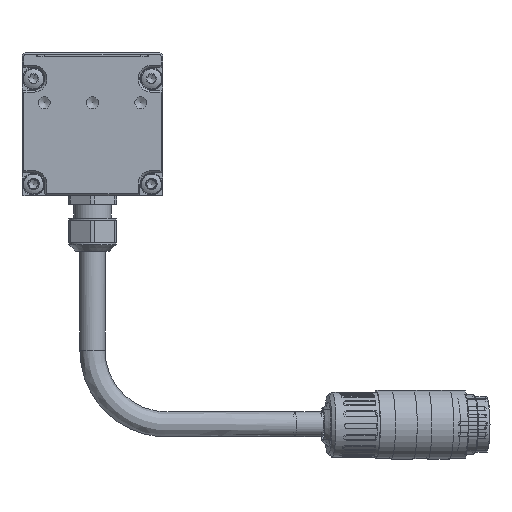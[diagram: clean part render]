
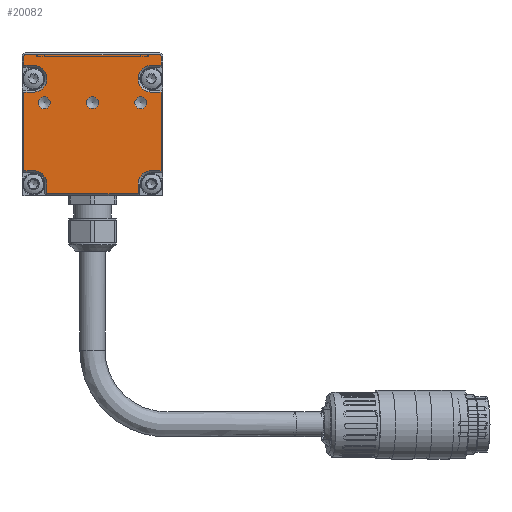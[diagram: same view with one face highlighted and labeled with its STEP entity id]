
A CAD part, left-side view. The second image highlights one B-rep face of the part: STEP entity #20082.
In plain terms, the highlighted planar face has unit normal (-1, 0, 0).
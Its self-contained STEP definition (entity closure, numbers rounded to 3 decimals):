
#880=LINE('',#27913,#1882);
#882=LINE('',#27917,#1884);
#886=LINE('',#27925,#1888);
#889=LINE('',#27931,#1891);
#891=LINE('',#27936,#1893);
#895=LINE('',#27944,#1897);
#897=LINE('',#27948,#1899);
#901=LINE('',#27957,#1903);
#903=LINE('',#27962,#1905);
#906=LINE('',#27970,#1908);
#909=LINE('',#27976,#1911);
#912=LINE('',#27984,#1914);
#916=LINE('',#27992,#1918);
#919=LINE('',#27999,#1921);
#1882=VECTOR('',#23214,1000.);
#1884=VECTOR('',#23218,1000.);
#1888=VECTOR('',#23224,1000.);
#1891=VECTOR('',#23229,1000.);
#1893=VECTOR('',#23235,1000.);
#1897=VECTOR('',#23241,1000.);
#1899=VECTOR('',#23247,1000.);
#1903=VECTOR('',#23257,1000.);
#1905=VECTOR('',#23265,1000.);
#1908=VECTOR('',#23274,1000.);
#1911=VECTOR('',#23283,1000.);
#1914=VECTOR('',#23292,1000.);
#1918=VECTOR('',#23302,1000.);
#1921=VECTOR('',#23311,1000.);
#2682=PLANE('',#21147);
#3923=ORIENTED_EDGE('',*,*,#7674,.T.);
#3924=ORIENTED_EDGE('',*,*,#7675,.T.);
#3925=ORIENTED_EDGE('',*,*,#7676,.T.);
#3926=ORIENTED_EDGE('',*,*,#7648,.T.);
#3927=ORIENTED_EDGE('',*,*,#7645,.T.);
#3928=ORIENTED_EDGE('',*,*,#7639,.T.);
#3929=ORIENTED_EDGE('',*,*,#7656,.T.);
#3930=ORIENTED_EDGE('',*,*,#7654,.T.);
#3931=ORIENTED_EDGE('',*,*,#7652,.T.);
#3932=ORIENTED_EDGE('',*,*,#7630,.T.);
#3933=ORIENTED_EDGE('',*,*,#7663,.T.);
#3934=ORIENTED_EDGE('',*,*,#7661,.T.);
#3935=ORIENTED_EDGE('',*,*,#7659,.T.);
#3936=ORIENTED_EDGE('',*,*,#7628,.T.);
#3937=ORIENTED_EDGE('',*,*,#7673,.F.);
#3938=ORIENTED_EDGE('',*,*,#7643,.T.);
#3939=ORIENTED_EDGE('',*,*,#7672,.F.);
#3940=ORIENTED_EDGE('',*,*,#7637,.T.);
#3941=ORIENTED_EDGE('',*,*,#7671,.T.);
#3942=ORIENTED_EDGE('',*,*,#7669,.T.);
#3943=ORIENTED_EDGE('',*,*,#7667,.T.);
#3944=ORIENTED_EDGE('',*,*,#7634,.T.);
#3945=ORIENTED_EDGE('',*,*,#7650,.T.);
#7628=EDGE_CURVE('',#9566,#9567,#880,.T.);
#7630=EDGE_CURVE('',#9569,#9568,#882,.T.);
#7634=EDGE_CURVE('',#9570,#9571,#886,.T.);
#7637=EDGE_CURVE('',#9572,#9573,#889,.T.);
#7639=EDGE_CURVE('',#9575,#9574,#891,.T.);
#7643=EDGE_CURVE('',#9576,#9577,#895,.T.);
#7645=EDGE_CURVE('',#9578,#9575,#897,.T.);
#7648=EDGE_CURVE('',#9579,#9578,#10697,.T.);
#7650=EDGE_CURVE('',#9571,#9579,#901,.T.);
#7652=EDGE_CURVE('',#9580,#9569,#903,.T.);
#7654=EDGE_CURVE('',#9581,#9580,#10698,.T.);
#7656=EDGE_CURVE('',#9574,#9581,#906,.T.);
#7659=EDGE_CURVE('',#9582,#9566,#909,.T.);
#7661=EDGE_CURVE('',#9583,#9582,#10699,.T.);
#7663=EDGE_CURVE('',#9568,#9583,#912,.T.);
#7667=EDGE_CURVE('',#9584,#9570,#916,.T.);
#7669=EDGE_CURVE('',#9585,#9584,#10700,.T.);
#7671=EDGE_CURVE('',#9573,#9585,#919,.T.);
#7672=EDGE_CURVE('',#9572,#9577,#10701,.T.);
#7673=EDGE_CURVE('',#9576,#9567,#10702,.T.);
#7674=EDGE_CURVE('',#9586,#9586,#10703,.T.);
#7675=EDGE_CURVE('',#9587,#9587,#10704,.T.);
#7676=EDGE_CURVE('',#9588,#9588,#10705,.T.);
#9566=VERTEX_POINT('',#27910);
#9567=VERTEX_POINT('',#27912);
#9568=VERTEX_POINT('',#27916);
#9569=VERTEX_POINT('',#27918);
#9570=VERTEX_POINT('',#27922);
#9571=VERTEX_POINT('',#27924);
#9572=VERTEX_POINT('',#27928);
#9573=VERTEX_POINT('',#27930);
#9574=VERTEX_POINT('',#27935);
#9575=VERTEX_POINT('',#27937);
#9576=VERTEX_POINT('',#27941);
#9577=VERTEX_POINT('',#27943);
#9578=VERTEX_POINT('',#27949);
#9579=VERTEX_POINT('',#27953);
#9580=VERTEX_POINT('',#27963);
#9581=VERTEX_POINT('',#27967);
#9582=VERTEX_POINT('',#27977);
#9583=VERTEX_POINT('',#27981);
#9584=VERTEX_POINT('',#27991);
#9585=VERTEX_POINT('',#27995);
#9586=VERTEX_POINT('',#28007);
#9587=VERTEX_POINT('',#28009);
#9588=VERTEX_POINT('',#28011);
#10697=CIRCLE('',#21122,3.6);
#10698=CIRCLE('',#21128,3.6);
#10699=CIRCLE('',#21134,3.6);
#10700=CIRCLE('',#21140,3.6);
#10701=CIRCLE('',#21144,0.5);
#10702=CIRCLE('',#21146,0.5);
#10703=CIRCLE('',#21148,1.621);
#10704=CIRCLE('',#21149,1.621);
#10705=CIRCLE('',#21150,1.621);
#11388=EDGE_LOOP('',(#3923));
#11389=EDGE_LOOP('',(#3924));
#11390=EDGE_LOOP('',(#3925));
#11391=EDGE_LOOP('',(#3926,#3927,#3928,#3929,#3930,#3931,#3932,#3933,#3934,
#3935,#3936,#3937,#3938,#3939,#3940,#3941,#3942,#3943,#3944,#3945));
#12478=FACE_BOUND('',#11388,.T.);
#12479=FACE_BOUND('',#11389,.T.);
#12480=FACE_BOUND('',#11390,.T.);
#12481=FACE_BOUND('',#11391,.T.);
#20082=ADVANCED_FACE('',(#12478,#12479,#12480,#12481),#2682,.F.);
#21122=AXIS2_PLACEMENT_3D('',#27954,#23252,#23253);
#21128=AXIS2_PLACEMENT_3D('',#27966,#23269,#23270);
#21134=AXIS2_PLACEMENT_3D('',#27980,#23287,#23288);
#21140=AXIS2_PLACEMENT_3D('',#27996,#23306,#23307);
#21144=AXIS2_PLACEMENT_3D('',#28002,#23316,#23317);
#21146=AXIS2_PLACEMENT_3D('',#28004,#23320,#23321);
#21147=AXIS2_PLACEMENT_3D('',#28005,#23322,#23323);
#21148=AXIS2_PLACEMENT_3D('',#28006,#23324,#23325);
#21149=AXIS2_PLACEMENT_3D('',#28008,#23326,#23327);
#21150=AXIS2_PLACEMENT_3D('',#28010,#23328,#23329);
#23214=DIRECTION('',(0.,0.,1.));
#23218=DIRECTION('',(0.,0.,1.));
#23224=DIRECTION('',(0.,0.,-1.));
#23229=DIRECTION('',(0.,0.,-1.));
#23235=DIRECTION('',(0.,-1.,0.));
#23241=DIRECTION('',(0.,1.,0.));
#23247=DIRECTION('',(0.,0.,-1.));
#23252=DIRECTION('',(1.,0.,0.));
#23253=DIRECTION('',(0.,1.,0.));
#23257=DIRECTION('',(0.,-1.,0.));
#23265=DIRECTION('',(0.,-1.,0.));
#23269=DIRECTION('',(1.,0.,0.));
#23270=DIRECTION('',(0.,1.,0.));
#23274=DIRECTION('',(0.,0.,1.));
#23283=DIRECTION('',(0.,-1.,0.));
#23287=DIRECTION('',(1.,0.,0.));
#23288=DIRECTION('',(0.,1.,0.));
#23292=DIRECTION('',(0.,1.,0.));
#23302=DIRECTION('',(0.,1.,0.));
#23306=DIRECTION('',(1.,0.,0.));
#23307=DIRECTION('',(0.,1.,0.));
#23311=DIRECTION('',(0.,-1.,0.));
#23316=DIRECTION('',(1.,0.,0.));
#23317=DIRECTION('',(0.,1.,0.));
#23320=DIRECTION('',(1.,0.,0.));
#23321=DIRECTION('',(0.,1.,0.));
#23322=DIRECTION('',(1.,0.,0.));
#23323=DIRECTION('',(0.,1.,0.));
#23324=DIRECTION('',(1.,0.,0.));
#23325=DIRECTION('',(0.,-1.,0.));
#23326=DIRECTION('',(1.,0.,0.));
#23327=DIRECTION('',(0.,-1.,0.));
#23328=DIRECTION('',(1.,0.,0.));
#23329=DIRECTION('',(0.,-1.,0.));
#27910=CARTESIAN_POINT('',(-1314.998,-18.5,35.119));
#27912=CARTESIAN_POINT('',(-1314.998,-18.5,37.519));
#27913=CARTESIAN_POINT('',(-1314.998,-18.5,0.019));
#27916=CARTESIAN_POINT('',(-1314.998,-18.5,27.919));
#27917=CARTESIAN_POINT('',(-1314.998,-18.5,0.019));
#27918=CARTESIAN_POINT('',(-1314.998,-18.5,6.719));
#27922=CARTESIAN_POINT('',(-1314.998,18.5,27.919));
#27924=CARTESIAN_POINT('',(-1314.998,18.5,6.719));
#27925=CARTESIAN_POINT('',(-1314.998,18.5,0.019));
#27928=CARTESIAN_POINT('',(-1314.998,18.5,37.519));
#27930=CARTESIAN_POINT('',(-1314.998,18.5,35.119));
#27931=CARTESIAN_POINT('',(-1314.998,18.5,0.019));
#27935=CARTESIAN_POINT('',(-1314.998,-12.3,0.519));
#27936=CARTESIAN_POINT('',(-1314.998,-12.3,0.519));
#27937=CARTESIAN_POINT('',(-1314.998,12.3,0.519));
#27941=CARTESIAN_POINT('',(-1314.998,-18.,38.019));
#27943=CARTESIAN_POINT('',(-1314.998,18.,38.019));
#27944=CARTESIAN_POINT('',(-1314.998,-19.,38.019));
#27948=CARTESIAN_POINT('',(-1314.998,12.3,0.019));
#27949=CARTESIAN_POINT('',(-1314.998,12.3,3.119));
#27953=CARTESIAN_POINT('',(-1314.998,15.9,6.719));
#27954=CARTESIAN_POINT('',(-1314.998,15.9,3.119));
#27957=CARTESIAN_POINT('',(-1314.998,-19.,6.719));
#27962=CARTESIAN_POINT('',(-1314.998,-19.,6.719));
#27963=CARTESIAN_POINT('',(-1314.998,-15.9,6.719));
#27966=CARTESIAN_POINT('',(-1314.998,-15.9,3.119));
#27967=CARTESIAN_POINT('',(-1314.998,-12.3,3.119));
#27970=CARTESIAN_POINT('',(-1314.998,-12.3,0.019));
#27976=CARTESIAN_POINT('',(-1314.998,-19.,35.119));
#27977=CARTESIAN_POINT('',(-1314.998,-15.9,35.119));
#27980=CARTESIAN_POINT('',(-1314.998,-15.9,31.519));
#27981=CARTESIAN_POINT('',(-1314.998,-15.9,27.919));
#27984=CARTESIAN_POINT('',(-1314.998,-19.,27.919));
#27991=CARTESIAN_POINT('',(-1314.998,15.9,27.919));
#27992=CARTESIAN_POINT('',(-1314.998,-19.,27.919));
#27995=CARTESIAN_POINT('',(-1314.998,15.9,35.119));
#27996=CARTESIAN_POINT('',(-1314.998,15.9,31.519));
#27999=CARTESIAN_POINT('',(-1314.998,-19.,35.119));
#28002=CARTESIAN_POINT('',(-1314.998,18.,37.519));
#28004=CARTESIAN_POINT('',(-1314.998,-18.,37.519));
#28005=CARTESIAN_POINT('',(-1314.998,-19.,0.019));
#28006=CARTESIAN_POINT('',(-1314.998,13.,25.019));
#28007=CARTESIAN_POINT('',(-1314.998,11.379,25.019));
#28008=CARTESIAN_POINT('',(-1314.998,0.,25.019));
#28009=CARTESIAN_POINT('',(-1314.998,-1.621,25.019));
#28010=CARTESIAN_POINT('',(-1314.998,-13.,25.019));
#28011=CARTESIAN_POINT('',(-1314.998,-14.621,25.019));
